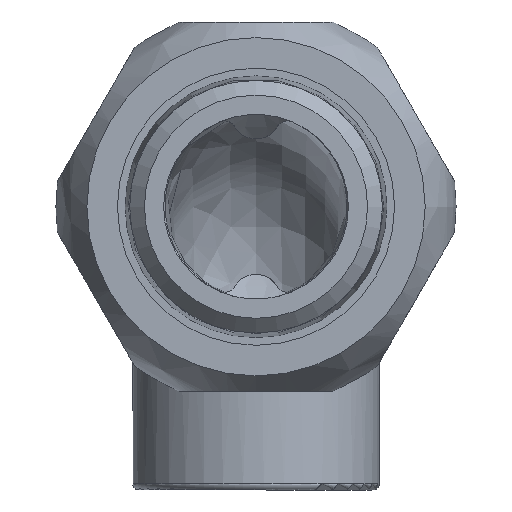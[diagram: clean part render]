
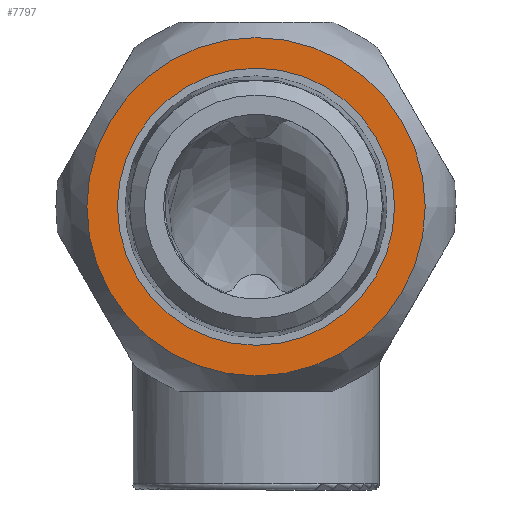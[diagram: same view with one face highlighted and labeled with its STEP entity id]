
A CAD part, left-side view. The second image highlights one B-rep face of the part: STEP entity #7797.
In plain terms, the highlighted planar face has unit normal (-1, 0, 0).
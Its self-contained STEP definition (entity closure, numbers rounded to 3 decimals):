
#7694=CARTESIAN_POINT('',(0.0,13.735,0.0));
#7695=VERTEX_POINT('',#7694);
#7696=CARTESIAN_POINT('',(0.0,0.0,0.0));
#7697=DIRECTION('',(1.0,0.0,0.0));
#7698=DIRECTION('',(0.0,1.0,0.0));
#7699=AXIS2_PLACEMENT_3D('',#7696,#7697,#7698);
#7700=CIRCLE('',#7699,13.735);
#7701=EDGE_CURVE('',#7695,#7695,#7700,.T.);
#7771=CARTESIAN_POINT('',(0.0,11.25,0.0));
#7772=VERTEX_POINT('',#7771);
#7773=CARTESIAN_POINT('',(0.0,0.0,0.0));
#7774=DIRECTION('',(1.0,0.0,0.0));
#7775=DIRECTION('',(0.0,1.0,0.0));
#7776=AXIS2_PLACEMENT_3D('',#7773,#7774,#7775);
#7777=CIRCLE('',#7776,11.25);
#7778=EDGE_CURVE('',#7772,#7772,#7777,.T.);
#7786=CARTESIAN_POINT('',(0.0,12.493,0.0));
#7787=DIRECTION('',(-1.0,0.0,0.0));
#7788=DIRECTION('',(0.0,0.0,1.0));
#7789=AXIS2_PLACEMENT_3D('',#7786,#7787,#7788);
#7790=PLANE('',#7789);
#7791=ORIENTED_EDGE('',*,*,#7701,.F.);
#7792=EDGE_LOOP('',(#7791));
#7793=FACE_OUTER_BOUND('',#7792,.T.);
#7794=ORIENTED_EDGE('',*,*,#7778,.T.);
#7795=EDGE_LOOP('',(#7794));
#7796=FACE_BOUND('',#7795,.T.);
#7797=ADVANCED_FACE('',(#7793,#7796),#7790,.T.);
